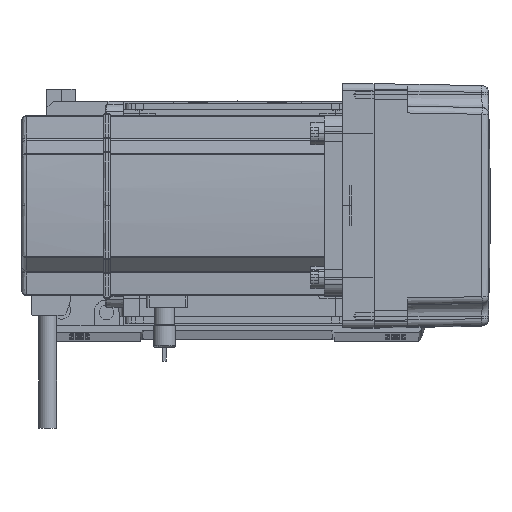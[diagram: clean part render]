
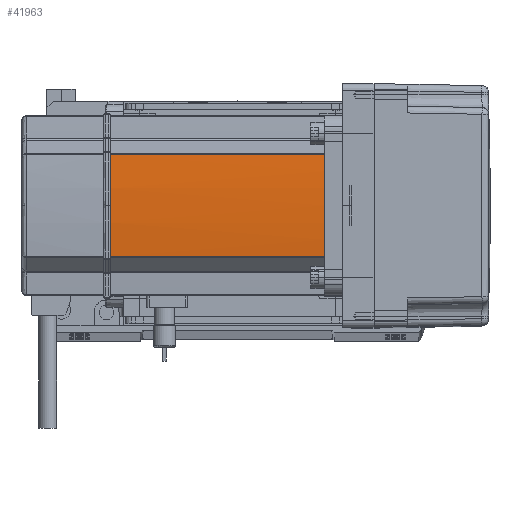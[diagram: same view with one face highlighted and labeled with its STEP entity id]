
A CAD part, top view. The second image highlights one B-rep face of the part: STEP entity #41963.
In plain terms, the highlighted cylindrical face has radius 270 mm (diameter 540 mm), a partial arc.
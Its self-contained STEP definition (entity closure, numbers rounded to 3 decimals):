
#781 = AXIS2_PLACEMENT_3D ( 'NONE', #3925, #42689, #13675 ) ;
#932 = CARTESIAN_POINT ( 'NONE',  ( 230., 0., 0. ) ) ;
#2672 = CARTESIAN_POINT ( 'NONE',  ( -39.042, 22.724, 39. ) ) ;
#3265 = EDGE_CURVE ( 'NONE', #56108, #11186, #44220, .T. ) ;
#3695 = EDGE_CURVE ( 'NONE', #11186, #47026, #48681, .T. ) ;
#3925 = CARTESIAN_POINT ( 'NONE',  ( 230., 0., 134. ) ) ;
#6892 = ORIENTED_EDGE ( 'NONE', *, *, #3265, .T. ) ;
#7052 = VERTEX_POINT ( 'NONE', #11747 ) ;
#9616 = CYLINDRICAL_SURFACE ( 'NONE', #15377, 270. ) ;
#11186 = VERTEX_POINT ( 'NONE', #39433 ) ;
#11705 = ORIENTED_EDGE ( 'NONE', *, *, #3695, .T. ) ;
#11747 = CARTESIAN_POINT ( 'NONE',  ( -39.042, -22.724, 134. ) ) ;
#13675 = DIRECTION ( 'NONE',  ( 1., 0., 0. ) ) ;
#15070 = DIRECTION ( 'NONE',  ( 0., 0., 1. ) ) ;
#15204 = DIRECTION ( 'NONE',  ( 1., 0., 0. ) ) ;
#15377 = AXIS2_PLACEMENT_3D ( 'NONE', #932, #15070, #29502 ) ;
#17295 = ORIENTED_EDGE ( 'NONE', *, *, #25595, .F. ) ;
#20300 = DIRECTION ( 'NONE',  ( 0., 0., -1. ) ) ;
#20775 = CARTESIAN_POINT ( 'NONE',  ( -39.042, -22.724, 39. ) ) ;
#21492 = CIRCLE ( 'NONE', #25312, 270. ) ;
#22714 = CARTESIAN_POINT ( 'NONE',  ( -39.042, 22.724, 0. ) ) ;
#23718 = VECTOR ( 'NONE', #53509, 1000. ) ;
#24024 = FACE_OUTER_BOUND ( 'NONE', #54252, .T. ) ;
#25312 = AXIS2_PLACEMENT_3D ( 'NONE', #30448, #20300, #15204 ) ;
#25595 = EDGE_CURVE ( 'NONE', #52123, #47026, #51124, .T. ) ;
#28745 = CARTESIAN_POINT ( 'NONE',  ( -39.042, -22.724, 0. ) ) ;
#29502 = DIRECTION ( 'NONE',  ( 1., 0., 0. ) ) ;
#30448 = CARTESIAN_POINT ( 'NONE',  ( 230., 0., 134. ) ) ;
#31102 = ORIENTED_EDGE ( 'NONE', *, *, #37155, .T. ) ;
#31188 = VECTOR ( 'NONE', #61067, 1000. ) ;
#37155 = EDGE_CURVE ( 'NONE', #52123, #7052, #58577, .T. ) ;
#38488 = CARTESIAN_POINT ( 'NONE',  ( 230., 0., 39. ) ) ;
#39433 = CARTESIAN_POINT ( 'NONE',  ( -39.042, 22.724, 134. ) ) ;
#41963 = ADVANCED_FACE ( 'NONE', ( #24024 ), #9616, .T. ) ;
#42689 = DIRECTION ( 'NONE',  ( 0., 0., -1. ) ) ;
#44220 = CIRCLE ( 'NONE', #781, 270. ) ;
#46495 = EDGE_CURVE ( 'NONE', #7052, #56108, #21492, .T. ) ;
#47026 = VERTEX_POINT ( 'NONE', #2672 ) ;
#48364 = AXIS2_PLACEMENT_3D ( 'NONE', #38488, #57321, #52283 ) ;
#48681 = LINE ( 'NONE', #22714, #31188 ) ;
#51124 = CIRCLE ( 'NONE', #48364, 270. ) ;
#52123 = VERTEX_POINT ( 'NONE', #20775 ) ;
#52283 = DIRECTION ( 'NONE',  ( 1., 0., 0. ) ) ;
#52441 = CARTESIAN_POINT ( 'NONE',  ( -40., 0., 134. ) ) ;
#53509 = DIRECTION ( 'NONE',  ( 0., 0., 1. ) ) ;
#54252 = EDGE_LOOP ( 'NONE', ( #61518, #6892, #11705, #17295, #31102 ) ) ;
#56108 = VERTEX_POINT ( 'NONE', #52441 ) ;
#57321 = DIRECTION ( 'NONE',  ( 0., 0., -1. ) ) ;
#58577 = LINE ( 'NONE', #28745, #23718 ) ;
#61067 = DIRECTION ( 'NONE',  ( 0., 0., -1. ) ) ;
#61518 = ORIENTED_EDGE ( 'NONE', *, *, #46495, .T. ) ;
